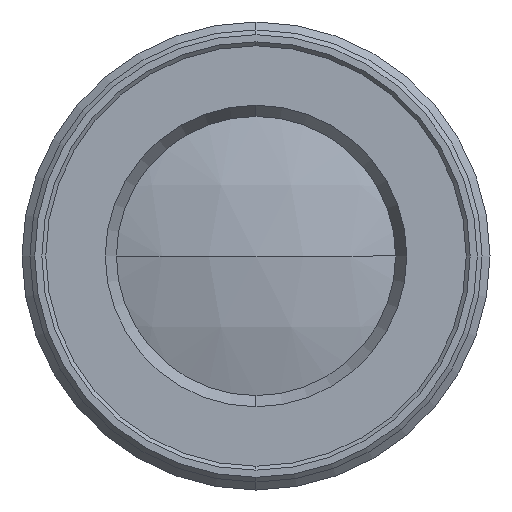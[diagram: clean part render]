
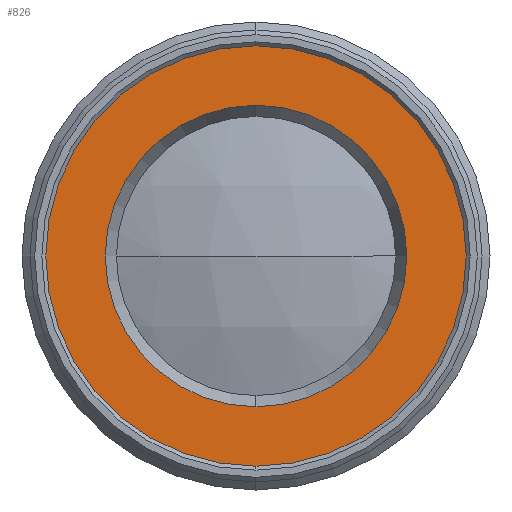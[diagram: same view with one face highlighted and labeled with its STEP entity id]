
A CAD part, left-side view. The second image highlights one B-rep face of the part: STEP entity #826.
In plain terms, the highlighted planar face has unit normal (-1, 0, 0).
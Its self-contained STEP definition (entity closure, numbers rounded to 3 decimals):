
#19 = DIRECTION ( 'NONE',  ( 1., 0., 0. ) ) ;
#98 = CIRCLE ( 'NONE', #1657, 13.5 ) ;
#99 = ORIENTED_EDGE ( 'NONE', *, *, #1848, .F. ) ;
#343 = CARTESIAN_POINT ( 'NONE',  ( -49.061, 0., 0. ) ) ;
#381 = CIRCLE ( 'NONE', #1544, 9.5 ) ;
#387 = CARTESIAN_POINT ( 'NONE',  ( -49.061, 0., 0. ) ) ;
#475 = ORIENTED_EDGE ( 'NONE', *, *, #1234, .T. ) ;
#581 = CARTESIAN_POINT ( 'NONE',  ( -49.061, 0., 0. ) ) ;
#688 = VERTEX_POINT ( 'NONE', #1980 ) ;
#701 = DIRECTION ( 'NONE',  ( 1., 0., 0. ) ) ;
#707 = ORIENTED_EDGE ( 'NONE', *, *, #1485, .F. ) ;
#708 = DIRECTION ( 'NONE',  ( 1., 0., 0. ) ) ;
#826 = ADVANCED_FACE ( 'NONE', ( #2279, #1274 ), #1472, .T. ) ;
#861 = DIRECTION ( 'NONE',  ( 0., 0., -1. ) ) ;
#919 = DIRECTION ( 'NONE',  ( 0., 0., -1. ) ) ;
#949 = CARTESIAN_POINT ( 'NONE',  ( -49.061, 0., -9.5 ) ) ;
#1090 = DIRECTION ( 'NONE',  ( 0., 0., -1. ) ) ;
#1095 = CARTESIAN_POINT ( 'NONE',  ( -49.061, 11.75, 0. ) ) ;
#1220 = EDGE_LOOP ( 'NONE', ( #99, #707 ) ) ;
#1234 = EDGE_CURVE ( 'NONE', #1570, #1559, #1636, .T. ) ;
#1261 = EDGE_LOOP ( 'NONE', ( #2256, #475 ) ) ;
#1274 = FACE_OUTER_BOUND ( 'NONE', #1220, .T. ) ;
#1323 = AXIS2_PLACEMENT_3D ( 'NONE', #2411, #708, #1090 ) ;
#1468 = AXIS2_PLACEMENT_3D ( 'NONE', #387, #19, #919 ) ;
#1472 = PLANE ( 'NONE',  #1974 ) ;
#1485 = EDGE_CURVE ( 'NONE', #2199, #688, #98, .T. ) ;
#1531 = DIRECTION ( 'NONE',  ( 1., 0., 0. ) ) ;
#1544 = AXIS2_PLACEMENT_3D ( 'NONE', #581, #1531, #2292 ) ;
#1559 = VERTEX_POINT ( 'NONE', #2189 ) ;
#1570 = VERTEX_POINT ( 'NONE', #949 ) ;
#1636 = CIRCLE ( 'NONE', #1323, 9.5 ) ;
#1657 = AXIS2_PLACEMENT_3D ( 'NONE', #343, #701, #861 ) ;
#1669 = EDGE_CURVE ( 'NONE', #1559, #1570, #381, .T. ) ;
#1844 = DIRECTION ( 'NONE',  ( -1., 0., 0. ) ) ;
#1848 = EDGE_CURVE ( 'NONE', #688, #2199, #2103, .T. ) ;
#1857 = DIRECTION ( 'NONE',  ( 0., 0., 1. ) ) ;
#1974 = AXIS2_PLACEMENT_3D ( 'NONE', #1095, #1844, #1857 ) ;
#1980 = CARTESIAN_POINT ( 'NONE',  ( -49.061, 0., -13.5 ) ) ;
#2103 = CIRCLE ( 'NONE', #1468, 13.5 ) ;
#2189 = CARTESIAN_POINT ( 'NONE',  ( -49.061, 0., 9.5 ) ) ;
#2199 = VERTEX_POINT ( 'NONE', #2367 ) ;
#2256 = ORIENTED_EDGE ( 'NONE', *, *, #1669, .T. ) ;
#2279 = FACE_BOUND ( 'NONE', #1261, .T. ) ;
#2292 = DIRECTION ( 'NONE',  ( 0., 0., -1. ) ) ;
#2367 = CARTESIAN_POINT ( 'NONE',  ( -49.061, 0., 13.5 ) ) ;
#2411 = CARTESIAN_POINT ( 'NONE',  ( -49.061, 0., 0. ) ) ;
